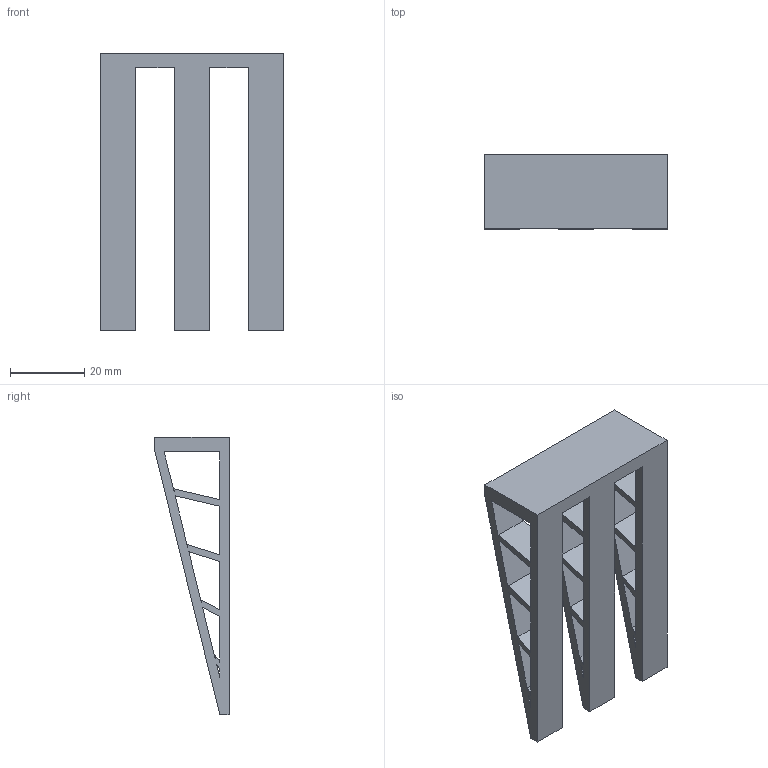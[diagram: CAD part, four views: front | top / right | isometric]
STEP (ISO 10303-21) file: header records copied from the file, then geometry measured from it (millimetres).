
FILE_DESCRIPTION(('Open CASCADE Model'),'2;1');
FILE_NAME('Open CASCADE Shape Model','2026-10-15T19:48:38',('Author'),( 'Open CASCADE'),'Open CASCADE STEP processor 7.9','Open CASCADE 7.9' ,'Unknown');
FILE_SCHEMA(('AUTOMOTIVE_DESIGN { 1 0 10303 214 1 1 1 1 }'));
Length unit declared in the file: millimetre
Products named in the file (1): Open CASCADE STEP translator 7.9 18
Bounding box: 49.5 x 20 x 75 mm (x, y, z)
Volume: 15093.8 mm3; surface area: 13806.4 mm2
Topology: 1 solids, 1 shells, 82 faces, 248 edges, 164 vertices
Faces by surface type: plane 82
Entity records: 6014 total; most frequent: CARTESIAN_POINT 991, DIRECTION 910, LINE 744, VECTOR 744, ORIENTED_EDGE 496, PCURVE 496, DEFINITIONAL_REPRESENTATION 496, EDGE_CURVE 248
